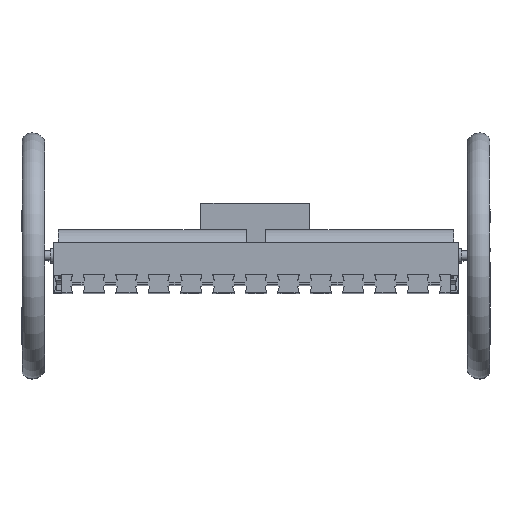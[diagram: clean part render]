
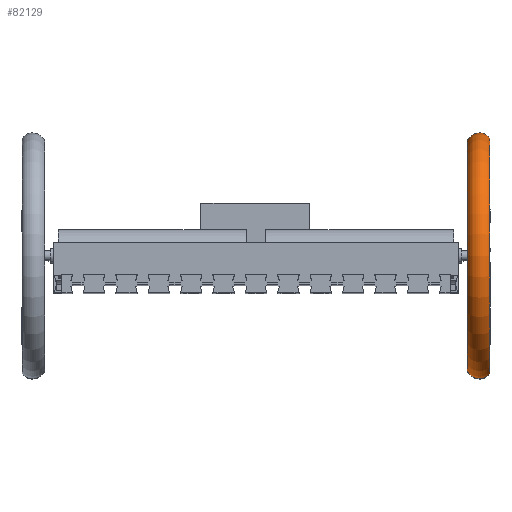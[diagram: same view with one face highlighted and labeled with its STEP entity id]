
A CAD part, top view. The second image highlights one B-rep face of the part: STEP entity #82129.
In plain terms, the highlighted toroidal (fillet/blend) face has major radius 33.847 mm and minor radius 4.072 mm.
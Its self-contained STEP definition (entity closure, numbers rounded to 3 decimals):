
#83=TOROIDAL_SURFACE('',#86556,33.847,4.072);
#5483=FACE_OUTER_BOUND('',#9721,.T.);
#9721=EDGE_LOOP('',(#59247,#59248,#59249,#59250,#59251,#59252));
#37235=CIRCLE('',#86530,35.433);
#37236=CIRCLE('',#86531,35.433);
#37254=CIRCLE('',#86554,36.3);
#37255=CIRCLE('',#86555,36.3);
#37256=CIRCLE('',#86557,4.072);
#37987=VERTEX_POINT('',#113723);
#37988=VERTEX_POINT('',#113724);
#38015=VERTEX_POINT('',#113789);
#38016=VERTEX_POINT('',#113790);
#46294=EDGE_CURVE('',#37987,#37988,#37235,.T.);
#46295=EDGE_CURVE('',#37988,#37987,#37236,.T.);
#46327=EDGE_CURVE('',#38015,#38016,#37254,.T.);
#46328=EDGE_CURVE('',#38016,#38015,#37255,.T.);
#46329=EDGE_CURVE('',#37988,#38016,#37256,.T.);
#59247=ORIENTED_EDGE('',*,*,#46294,.T.);
#59248=ORIENTED_EDGE('',*,*,#46329,.T.);
#59249=ORIENTED_EDGE('',*,*,#46327,.F.);
#59250=ORIENTED_EDGE('',*,*,#46328,.F.);
#59251=ORIENTED_EDGE('',*,*,#46329,.F.);
#59252=ORIENTED_EDGE('',*,*,#46295,.T.);
#82129=ADVANCED_FACE('',(#5483),#83,.T.);
#86530=AXIS2_PLACEMENT_3D('',#113725,#92281,#92282);
#86531=AXIS2_PLACEMENT_3D('',#113726,#92283,#92284);
#86554=AXIS2_PLACEMENT_3D('',#113791,#92343,#92344);
#86555=AXIS2_PLACEMENT_3D('',#113792,#92345,#92346);
#86556=AXIS2_PLACEMENT_3D('',#113793,#92347,#92348);
#86557=AXIS2_PLACEMENT_3D('',#113794,#92349,#92350);
#92281=DIRECTION('center_axis',(0.,0.,
-1.));
#92282=DIRECTION('ref_axis',(1.,0.,0.));
#92283=DIRECTION('center_axis',(0.,0.,
-1.));
#92284=DIRECTION('ref_axis',(1.,0.,0.));
#92343=DIRECTION('center_axis',(0.,0.,
-1.));
#92344=DIRECTION('ref_axis',(1.,0.,0.));
#92345=DIRECTION('center_axis',(0.,0.,
-1.));
#92346=DIRECTION('ref_axis',(1.,0.,0.));
#92347=DIRECTION('center_axis',(0.,0.,
1.));
#92348=DIRECTION('ref_axis',(-1.,0.,0.));
#92349=DIRECTION('center_axis',(0.,1.,0.));
#92350=DIRECTION('ref_axis',(1.,0.,0.));
#113723=CARTESIAN_POINT('',(0.,-35.433,0.));
#113724=CARTESIAN_POINT('',(35.433,0.,0.));
#113725=CARTESIAN_POINT('Origin',(0.,0.,
0.));
#113726=CARTESIAN_POINT('Origin',(0.,0.,
0.));
#113789=CARTESIAN_POINT('',(0.,-36.3,-7.));
#113790=CARTESIAN_POINT('',(36.3,0.,-7.));
#113791=CARTESIAN_POINT('Origin',(0.,0.,
-7.));
#113792=CARTESIAN_POINT('Origin',(0.,0.,
-7.));
#113793=CARTESIAN_POINT('Origin',(0.,0.,
-3.75));
#113794=CARTESIAN_POINT('Origin',(33.847,0.,
-3.75));
